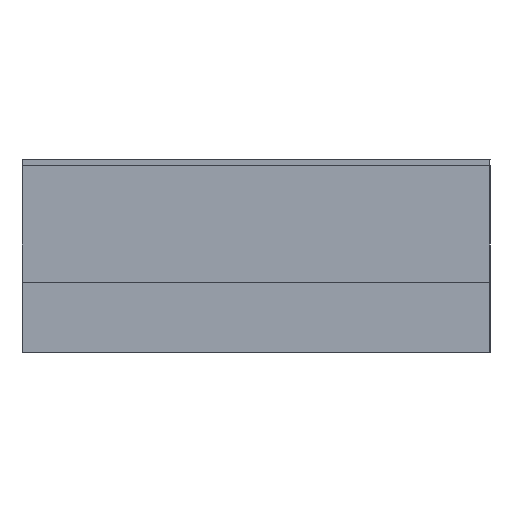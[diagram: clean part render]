
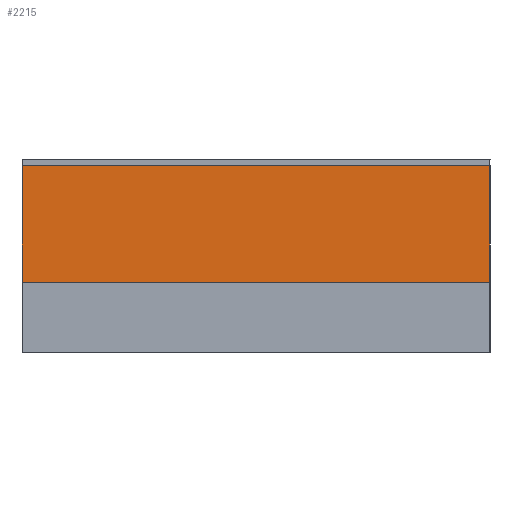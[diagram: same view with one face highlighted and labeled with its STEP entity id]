
A CAD part, left-side view. The second image highlights one B-rep face of the part: STEP entity #2215.
In plain terms, the highlighted planar face has unit normal (-1, 0, 0).
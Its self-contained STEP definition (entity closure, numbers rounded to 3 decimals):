
#10 = LINE ( 'NONE', #9710, #5710 ) ;
#940 = VECTOR ( 'NONE', #11955, 1000. ) ;
#1512 = CARTESIAN_POINT ( 'NONE',  ( -63.835, -43.084, 108.037 ) ) ;
#1577 = CARTESIAN_POINT ( 'NONE',  ( -63.835, -3.084, 108.037 ) ) ;
#1727 = EDGE_CURVE ( 'NONE', #11700, #6304, #2374, .T. ) ;
#2139 = CARTESIAN_POINT ( 'NONE',  ( -63.835, -3.084, 98.037 ) ) ;
#2215 = ADVANCED_FACE ( 'NONE', ( #9367 ), #9965, .F. ) ;
#2374 = LINE ( 'NONE', #13050, #10208 ) ;
#2474 = VERTEX_POINT ( 'NONE', #7220 ) ;
#2539 = ORIENTED_EDGE ( 'NONE', *, *, #11741, .T. ) ;
#2637 = DIRECTION ( 'NONE',  ( 0., 0., -1. ) ) ;
#3312 = DIRECTION ( 'NONE',  ( 0., 1., 0. ) ) ;
#3514 = DIRECTION ( 'NONE',  ( 1., 0., 0. ) ) ;
#3903 = AXIS2_PLACEMENT_3D ( 'NONE', #1512, #3514, #10843 ) ;
#5481 = VECTOR ( 'NONE', #3312, 1000. ) ;
#5710 = VECTOR ( 'NONE', #10863, 1000. ) ;
#6100 = ORIENTED_EDGE ( 'NONE', *, *, #8815, .F. ) ;
#6304 = VERTEX_POINT ( 'NONE', #2139 ) ;
#7220 = CARTESIAN_POINT ( 'NONE',  ( -63.835, -43.084, 108.037 ) ) ;
#7943 = LINE ( 'NONE', #11685, #5481 ) ;
#8585 = ORIENTED_EDGE ( 'NONE', *, *, #13204, .T. ) ;
#8815 = EDGE_CURVE ( 'NONE', #9094, #6304, #10, .T. ) ;
#9094 = VERTEX_POINT ( 'NONE', #11893 ) ;
#9367 = FACE_OUTER_BOUND ( 'NONE', #11384, .T. ) ;
#9710 = CARTESIAN_POINT ( 'NONE',  ( -63.835, -43.084, 98.037 ) ) ;
#9854 = CARTESIAN_POINT ( 'NONE',  ( -63.835, -43.084, 108.037 ) ) ;
#9965 = PLANE ( 'NONE',  #3903 ) ;
#10208 = VECTOR ( 'NONE', #2637, 1000. ) ;
#10843 = DIRECTION ( 'NONE',  ( 0., 0., -1. ) ) ;
#10863 = DIRECTION ( 'NONE',  ( 0., 1., 0. ) ) ;
#11384 = EDGE_LOOP ( 'NONE', ( #8585, #12932, #6100, #2539 ) ) ;
#11685 = CARTESIAN_POINT ( 'NONE',  ( -63.835, -23.084, 108.037 ) ) ;
#11700 = VERTEX_POINT ( 'NONE', #1577 ) ;
#11741 = EDGE_CURVE ( 'NONE', #9094, #2474, #13241, .T. ) ;
#11893 = CARTESIAN_POINT ( 'NONE',  ( -63.835, -43.084, 98.037 ) ) ;
#11955 = DIRECTION ( 'NONE',  ( 0., 0., 1. ) ) ;
#12932 = ORIENTED_EDGE ( 'NONE', *, *, #1727, .T. ) ;
#13050 = CARTESIAN_POINT ( 'NONE',  ( -63.835, -3.084, 108.037 ) ) ;
#13204 = EDGE_CURVE ( 'NONE', #2474, #11700, #7943, .T. ) ;
#13241 = LINE ( 'NONE', #9854, #940 ) ;
